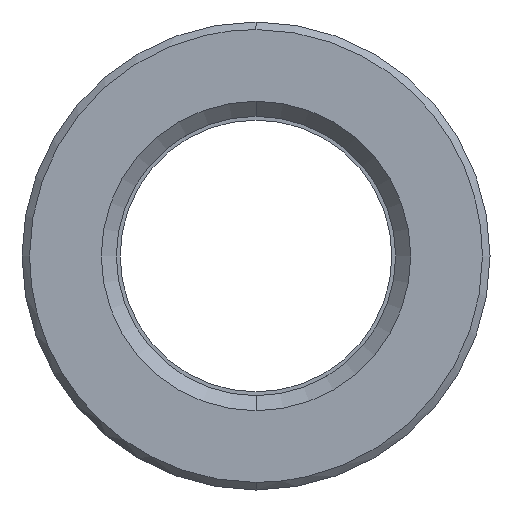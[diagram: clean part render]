
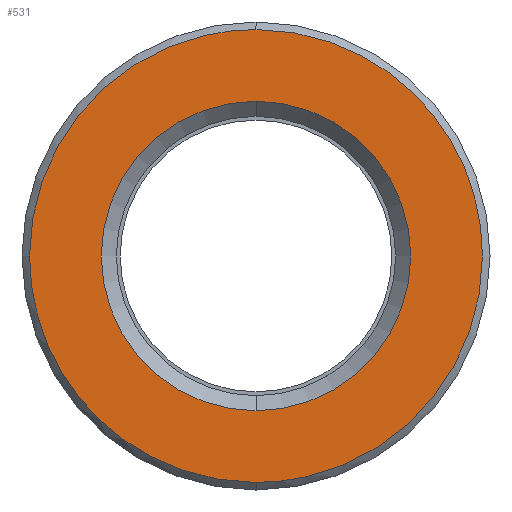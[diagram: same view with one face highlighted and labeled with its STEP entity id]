
A CAD part, left-side view. The second image highlights one B-rep face of the part: STEP entity #531.
In plain terms, the highlighted planar face has unit normal (-1, 0, 0).
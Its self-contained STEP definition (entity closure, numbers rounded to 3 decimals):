
#311=CARTESIAN_POINT('Axis2P3D Location',(0.,0.,0.)) ;
#315=CARTESIAN_POINT('Vertex',(0.,10.25,0.)) ;
#317=CARTESIAN_POINT('Vertex',(0.,0.,10.25)) ;
#320=CARTESIAN_POINT('Axis2P3D Location',(0.,0.,0.)) ;
#324=CARTESIAN_POINT('Vertex',(0.,0.,-10.25)) ;
#351=CARTESIAN_POINT('Axis2P3D Location',(0.,0.,0.)) ;
#355=CARTESIAN_POINT('Vertex',(0.,-10.25,0.)) ;
#358=CARTESIAN_POINT('Axis2P3D Location',(0.,0.,0.)) ;
#438=CARTESIAN_POINT('Axis2P3D Location',(0.,15.,0.)) ;
#444=CARTESIAN_POINT('Control Point',(0.,0.,-15.)) ;
#445=CARTESIAN_POINT('Control Point',(0.,1.359,-15.)) ;
#446=CARTESIAN_POINT('Control Point',(0.,2.718,-14.846)) ;
#447=CARTESIAN_POINT('Control Point',(0.,4.054,-14.538)) ;
#448=CARTESIAN_POINT('Control Point',(0.,6.784,-13.572)) ;
#449=CARTESIAN_POINT('Control Point',(0.,9.211,-11.985)) ;
#450=CARTESIAN_POINT('Control Point',(0.,10.379,-10.99)) ;
#451=CARTESIAN_POINT('Control Point',(0.,12.437,-8.725)) ;
#452=CARTESIAN_POINT('Control Point',(0.,13.866,-6.019)) ;
#453=CARTESIAN_POINT('Control Point',(0.,14.405,-4.583)) ;
#454=CARTESIAN_POINT('Control Point',(0.,14.829,-2.782)) ;
#455=CARTESIAN_POINT('Control Point',(0.,14.975,-0.952)) ;
#456=CARTESIAN_POINT('Control Point',(0.,14.992,-0.635)) ;
#457=CARTESIAN_POINT('Control Point',(0.,15.,-0.317)) ;
#458=CARTESIAN_POINT('Control Point',(0.,15.,0.)) ;
#459=CARTESIAN_POINT('Vertex',(0.,0.,-15.)) ;
#461=CARTESIAN_POINT('Vertex',(0.,15.,0.)) ;
#465=CARTESIAN_POINT('Control Point',(0.,-15.,0.)) ;
#466=CARTESIAN_POINT('Control Point',(0.,-15.,-1.518)) ;
#467=CARTESIAN_POINT('Control Point',(0.,-14.808,-3.036)) ;
#468=CARTESIAN_POINT('Control Point',(0.,-14.424,-4.521)) ;
#469=CARTESIAN_POINT('Control Point',(0.,-13.289,-7.363)) ;
#470=CARTESIAN_POINT('Control Point',(0.,-11.481,-9.832)) ;
#471=CARTESIAN_POINT('Control Point',(0.,-10.425,-10.945)) ;
#472=CARTESIAN_POINT('Control Point',(0.,-8.055,-12.881)) ;
#473=CARTESIAN_POINT('Control Point',(0.,-5.278,-14.165)) ;
#474=CARTESIAN_POINT('Control Point',(0.,-3.815,-14.627)) ;
#475=CARTESIAN_POINT('Control Point',(0.,-2.152,-14.927)) ;
#476=CARTESIAN_POINT('Control Point',(0.,-0.476,-14.994)) ;
#477=CARTESIAN_POINT('Control Point',(0.,-0.317,-14.998)) ;
#478=CARTESIAN_POINT('Control Point',(0.,-0.159,-15.)) ;
#479=CARTESIAN_POINT('Control Point',(0.,0.,-15.)) ;
#480=CARTESIAN_POINT('Vertex',(0.,-15.,0.)) ;
#484=CARTESIAN_POINT('Control Point',(0.,0.,15.)) ;
#485=CARTESIAN_POINT('Control Point',(0.,-1.359,15.)) ;
#486=CARTESIAN_POINT('Control Point',(0.,-2.718,14.846)) ;
#487=CARTESIAN_POINT('Control Point',(0.,-4.054,14.538)) ;
#488=CARTESIAN_POINT('Control Point',(0.,-6.784,13.572)) ;
#489=CARTESIAN_POINT('Control Point',(0.,-9.211,11.985)) ;
#490=CARTESIAN_POINT('Control Point',(0.,-10.379,10.99)) ;
#491=CARTESIAN_POINT('Control Point',(0.,-12.437,8.725)) ;
#492=CARTESIAN_POINT('Control Point',(0.,-13.866,6.019)) ;
#493=CARTESIAN_POINT('Control Point',(0.,-14.405,4.583)) ;
#494=CARTESIAN_POINT('Control Point',(0.,-14.829,2.782)) ;
#495=CARTESIAN_POINT('Control Point',(0.,-14.975,0.952)) ;
#496=CARTESIAN_POINT('Control Point',(0.,-14.992,0.635)) ;
#497=CARTESIAN_POINT('Control Point',(0.,-15.,0.317)) ;
#498=CARTESIAN_POINT('Control Point',(0.,-15.,0.)) ;
#499=CARTESIAN_POINT('Vertex',(0.,0.,15.)) ;
#503=CARTESIAN_POINT('Control Point',(0.,15.,0.)) ;
#504=CARTESIAN_POINT('Control Point',(0.,15.,1.518)) ;
#505=CARTESIAN_POINT('Control Point',(0.,14.808,3.036)) ;
#506=CARTESIAN_POINT('Control Point',(0.,14.424,4.521)) ;
#507=CARTESIAN_POINT('Control Point',(0.,13.289,7.363)) ;
#508=CARTESIAN_POINT('Control Point',(0.,11.481,9.832)) ;
#509=CARTESIAN_POINT('Control Point',(0.,10.425,10.945)) ;
#510=CARTESIAN_POINT('Control Point',(0.,8.055,12.881)) ;
#511=CARTESIAN_POINT('Control Point',(0.,5.278,14.165)) ;
#512=CARTESIAN_POINT('Control Point',(0.,3.815,14.627)) ;
#513=CARTESIAN_POINT('Control Point',(0.,2.152,14.927)) ;
#514=CARTESIAN_POINT('Control Point',(0.,0.476,14.994)) ;
#515=CARTESIAN_POINT('Control Point',(0.,0.317,14.998)) ;
#516=CARTESIAN_POINT('Control Point',(0.,0.159,15.)) ;
#517=CARTESIAN_POINT('Control Point',(0.,0.,15.)) ;
#312=DIRECTION('Axis2P3D Direction',(-1.,0.,0.)) ;
#321=DIRECTION('Axis2P3D Direction',(-1.,0.,0.)) ;
#352=DIRECTION('Axis2P3D Direction',(-1.,0.,0.)) ;
#359=DIRECTION('Axis2P3D Direction',(-1.,0.,0.)) ;
#439=DIRECTION('Axis2P3D Direction',(-1.,0.,0.)) ;
#440=DIRECTION('Axis2P3D XDirection',(0.,0.,1.)) ;
#313=AXIS2_PLACEMENT_3D('Circle Axis2P3D',#311,#312,$) ;
#322=AXIS2_PLACEMENT_3D('Circle Axis2P3D',#320,#321,$) ;
#353=AXIS2_PLACEMENT_3D('Circle Axis2P3D',#351,#352,$) ;
#360=AXIS2_PLACEMENT_3D('Circle Axis2P3D',#358,#359,$) ;
#441=AXIS2_PLACEMENT_3D('Plane Axis2P3D',#438,#439,#440) ;
#520=ORIENTED_EDGE('',*,*,#463,.F.) ;
#521=ORIENTED_EDGE('',*,*,#482,.F.) ;
#522=ORIENTED_EDGE('',*,*,#501,.F.) ;
#523=ORIENTED_EDGE('',*,*,#518,.F.) ;
#526=ORIENTED_EDGE('',*,*,#319,.T.) ;
#527=ORIENTED_EDGE('',*,*,#362,.T.) ;
#528=ORIENTED_EDGE('',*,*,#357,.T.) ;
#529=ORIENTED_EDGE('',*,*,#326,.T.) ;
#530=FACE_BOUND('',#525,.T.) ;
#531=ADVANCED_FACE('553-18X96',(#524,#530),#442,.T.) ;
#443=B_SPLINE_CURVE_WITH_KNOTS('',5,(#444,#445,#446,#447,#448,#449,#450,#451,#452,#453,#454,#455,#456,#457,#458),.UNSPECIFIED.,.F.,.U.,(6,3,3,3,6),(33.321,42.932,53.665,64.398,66.642),.UNSPECIFIED.) ;
#464=B_SPLINE_CURVE_WITH_KNOTS('',5,(#465,#466,#467,#468,#469,#470,#471,#472,#473,#474,#475,#476,#477,#478,#479),.UNSPECIFIED.,.F.,.U.,(6,3,3,3,6),(0.,10.733,21.466,32.199,33.321),.UNSPECIFIED.) ;
#483=B_SPLINE_CURVE_WITH_KNOTS('',5,(#484,#485,#486,#487,#488,#489,#490,#491,#492,#493,#494,#495,#496,#497,#498),.UNSPECIFIED.,.F.,.U.,(6,3,3,3,6),(33.321,42.932,53.665,64.398,66.642),.UNSPECIFIED.) ;
#502=B_SPLINE_CURVE_WITH_KNOTS('',5,(#503,#504,#505,#506,#507,#508,#509,#510,#511,#512,#513,#514,#515,#516,#517),.UNSPECIFIED.,.F.,.U.,(6,3,3,3,6),(0.,10.733,21.466,32.199,33.321),.UNSPECIFIED.) ;
#314=CIRCLE('generated circle',#313,10.25) ;
#323=CIRCLE('generated circle',#322,10.25) ;
#354=CIRCLE('generated circle',#353,10.25) ;
#361=CIRCLE('generated circle',#360,10.25) ;
#319=EDGE_CURVE('',#316,#318,#314,.F.) ;
#326=EDGE_CURVE('',#325,#316,#323,.F.) ;
#357=EDGE_CURVE('',#356,#325,#354,.F.) ;
#362=EDGE_CURVE('',#318,#356,#361,.F.) ;
#463=EDGE_CURVE('',#460,#462,#443,.T.) ;
#482=EDGE_CURVE('',#481,#460,#464,.T.) ;
#501=EDGE_CURVE('',#500,#481,#483,.T.) ;
#518=EDGE_CURVE('',#462,#500,#502,.T.) ;
#519=EDGE_LOOP('',(#520,#521,#522,#523)) ;
#525=EDGE_LOOP('',(#526,#527,#528,#529)) ;
#524=FACE_OUTER_BOUND('',#519,.T.) ;
#442=PLANE('Plane',#441) ;
#316=VERTEX_POINT('',#315) ;
#318=VERTEX_POINT('',#317) ;
#325=VERTEX_POINT('',#324) ;
#356=VERTEX_POINT('',#355) ;
#460=VERTEX_POINT('',#459) ;
#462=VERTEX_POINT('',#461) ;
#481=VERTEX_POINT('',#480) ;
#500=VERTEX_POINT('',#499) ;
